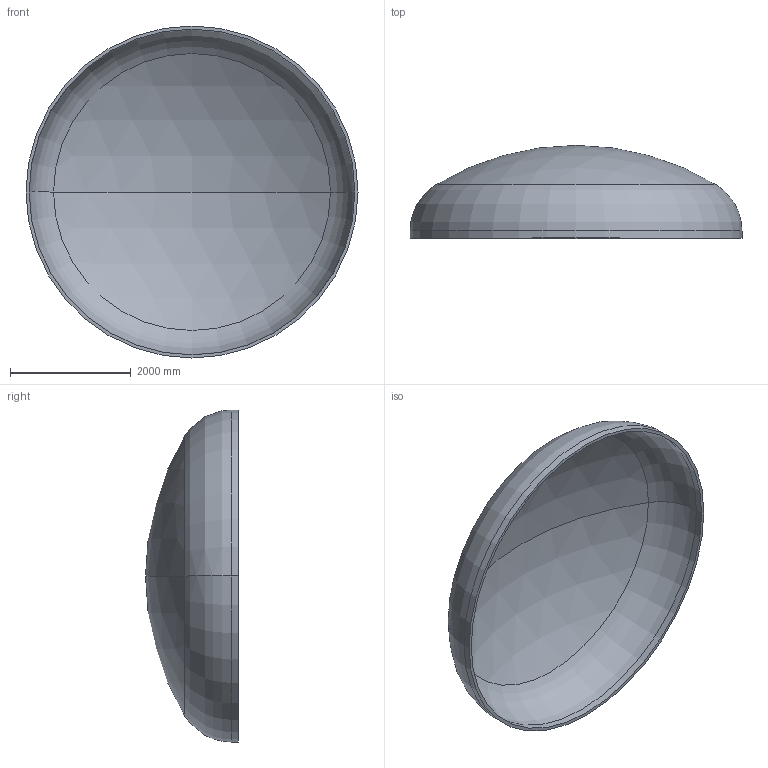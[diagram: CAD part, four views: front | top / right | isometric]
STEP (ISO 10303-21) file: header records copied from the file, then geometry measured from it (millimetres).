
FILE_DESCRIPTION (( 'STEP AP203' ), '1' );
FILE_NAME ('DIN 28013 Korbbogenform_-_Boden DIN 28013 - 5500 x 120 - I - s=52.step', '2016-07-04T10:34:25', ( '' ), ( '' ), 'SwSTEP 2.0', 'SolidWorks 2013', '' );
FILE_SCHEMA (( 'CONFIG_CONTROL_DESIGN' ));
Length unit declared in the file: millimetre
Products named in the file (1): DIN 28013 Korbbogenform_-_Boden DIN 28013 - 5500 x 120 - I - s=52
Bounding box: 5500 x 1538.12 x 5500 mm (x, y, z)
Volume: 1795813763 mm3; surface area: 69965397.7 mm2
Topology: 1 solids, 1 shells, 13 faces, 24 edges, 14 vertices
Faces by surface type: torus 4, cylinder 4, sphere 4, plane 1
Entity records: 407 total; most frequent: DIRECTION 72, CARTESIAN_POINT 52, ORIENTED_EDGE 48, AXIS2_PLACEMENT_3D 34, EDGE_CURVE 24, CIRCLE 20, EDGE_LOOP 14, VERTEX_POINT 14
